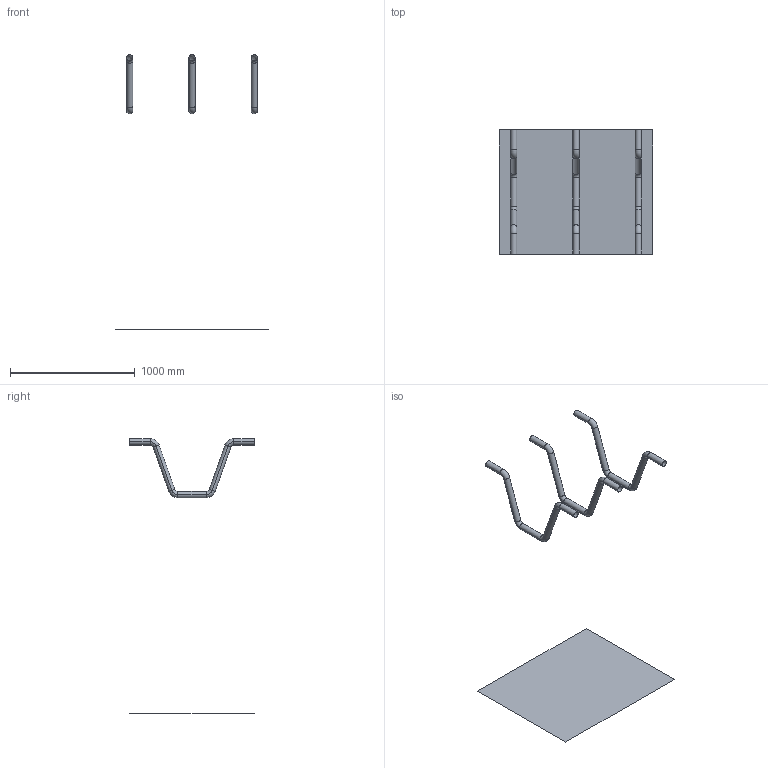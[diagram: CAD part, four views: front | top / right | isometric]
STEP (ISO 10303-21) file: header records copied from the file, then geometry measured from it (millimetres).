
FILE_DESCRIPTION(('CATIA V5 STEP Exchange'),'2;1');
FILE_NAME('C:\_Andres\UNIVERSIDAD\IQS\ASIGNATURAS\DAO\EXF\EXF-16172c\2inicio\Perez_Pellicer_Ej08_v23.stp','2017-03-05T21:54:55+00:00',('none'),('none'),'CATIA Version 5-6 Release 2014 SP1 HF18','CATIA V5 STEP AP203','none');
FILE_SCHEMA(('CONFIG_CONTROL_DESIGN'));
Length unit declared in the file: millimetre
Products named in the file (1): Perez_Pellicer_Ej08_v23
Bounding box: 1230 x 1000 x 2202 mm (x, y, z)
Surface area: 1965632.1 mm2 (no closed solid volume)
Topology: 0 solids, 4 shells, 55 faces, 118 edges, 64 vertices
Faces by surface type: cylinder 30, torus 24, plane 1
Entity records: 1283 total; most frequent: ORIENTED_EDGE 220, CARTESIAN_POINT 208, DIRECTION 168, EDGE_CURVE 118, AXIS2_PLACEMENT_3D 110, CIRCLE 84, VERTEX_POINT 64, ADVANCED_FACE 55
